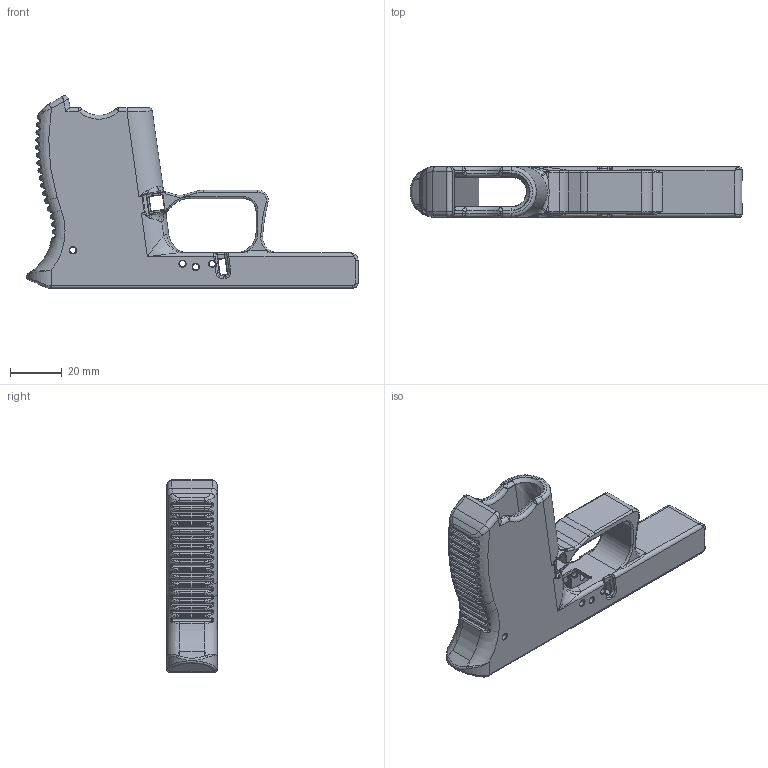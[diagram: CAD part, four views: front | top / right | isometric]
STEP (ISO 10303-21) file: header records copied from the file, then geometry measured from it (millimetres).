
FILE_DESCRIPTION(/* description */ (''),/* implementation_level */ '2;1');
FILE_NAME(/* name */ '/var/folders/q3/90_s8p4j77vgml143qxzs9nh0000gn/T/com.autodesk.mas.fusion360/Neutron/d623bc15-95c4-42d3-85ab-2e918f39d853.stp',/* time_stamp */ '2019-06-02T12:58:02-04:00',/* author */ ('suzuki450ltr'),/* organization */ (''),/* preprocessor_version */ 'ST-DEVELOPER v18',/* originating_system */ 'Autodesk Translation Framework v8.2.0.1029',/* authorisation */ '');
FILE_SCHEMA (('AUTOMOTIVE_DESIGN { 1 0 10303 214 3 1 1 }'));
Products named in the file (1): DB380 Fix
Bounding box: 128.65 x 19.5 x 74.6 mm (x, y, z)
Volume: 45906.2 mm3; surface area: 24918.9 mm2
Topology: 1 solids, 1 shells, 1234 faces, 2969 edges, 1632 vertices
Faces by surface type: bspline 470, cylinder 414, plane 162, torus 138, sphere 29, cone 21
Full cylindrical faces by diameter (mm): 2 x1, 2.35 x8
Entity records: 46440 total; most frequent: CARTESIAN_POINT 20449, ORIENTED_EDGE 5766, DIRECTION 4958, EDGE_CURVE 2883, AXIS2_PLACEMENT_3D 2067, VERTEX_POINT 1632, EDGE_LOOP 1245, FACE_OUTER_BOUND 1234
